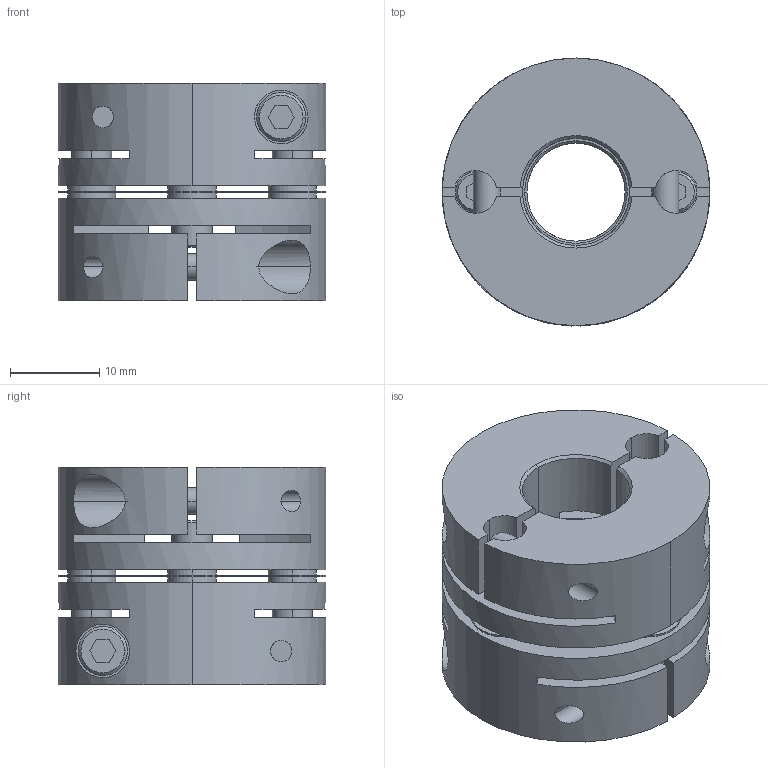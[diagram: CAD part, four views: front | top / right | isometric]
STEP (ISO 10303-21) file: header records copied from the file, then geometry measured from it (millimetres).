
FILE_DESCRIPTION((''),'2;1');
FILE_NAME('LAS-30C-11×12.stp','2011-08-10T13:20:42',(''),(''),'AutoCAD STEP 2000i','AutoCAD 2000i',', , ');
FILE_SCHEMA(('CONFIG_CONTROL_DESIGN'));
Length unit declared in the file: millimetre
Products named in the file (7): LAS-30C-10×10; 忣兜1; LA-3002-D10-1; LA-3002-D10; LA-3002-D06-1; LA-3002-D06; LAS30-ITA
Assembly tree (6 placements, depth 2):
  LAS-30C-10×10
    忣兜1
    LA-3002-D10-1
    LA-3002-D10
    LA-3002-D06-1
    LA-3002-D06
    LAS30-ITA
Bounding box: 30 x 30 x 24.4 mm (x, y, z)
Volume: 12216.4 mm3; surface area: 9015.2 mm2
Topology: 1 solids, 1 shells, 244 faces, 648 edges, 424 vertices
Faces by surface type: plane 112, cylinder 104, cone 28
Entity records: 8527 total; most frequent: CARTESIAN_POINT 2123, DIRECTION 1330, ORIENTED_EDGE 1296, EDGE_CURVE 648, AXIS2_PLACEMENT_3D 487, VERTEX_POINT 424, VECTOR 356, LINE 356
